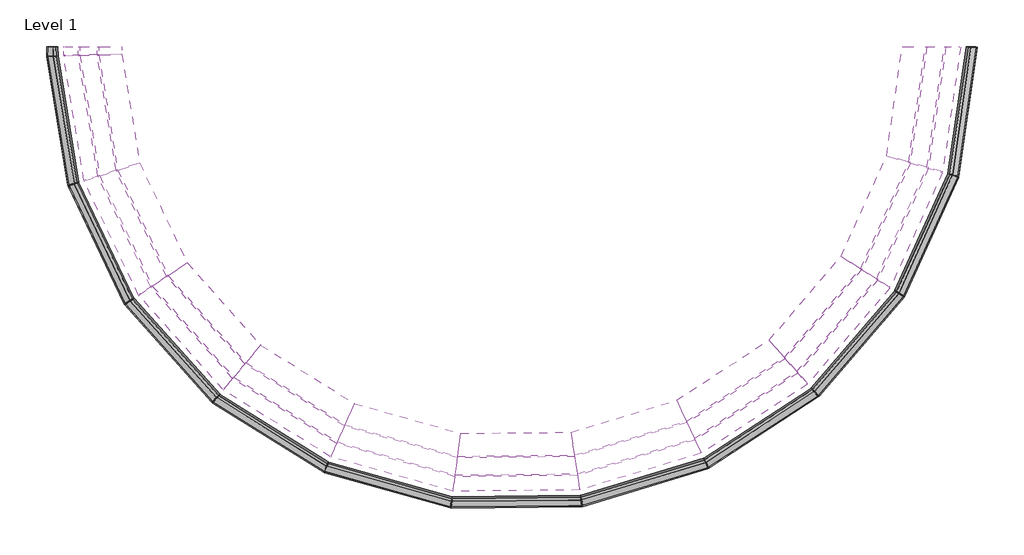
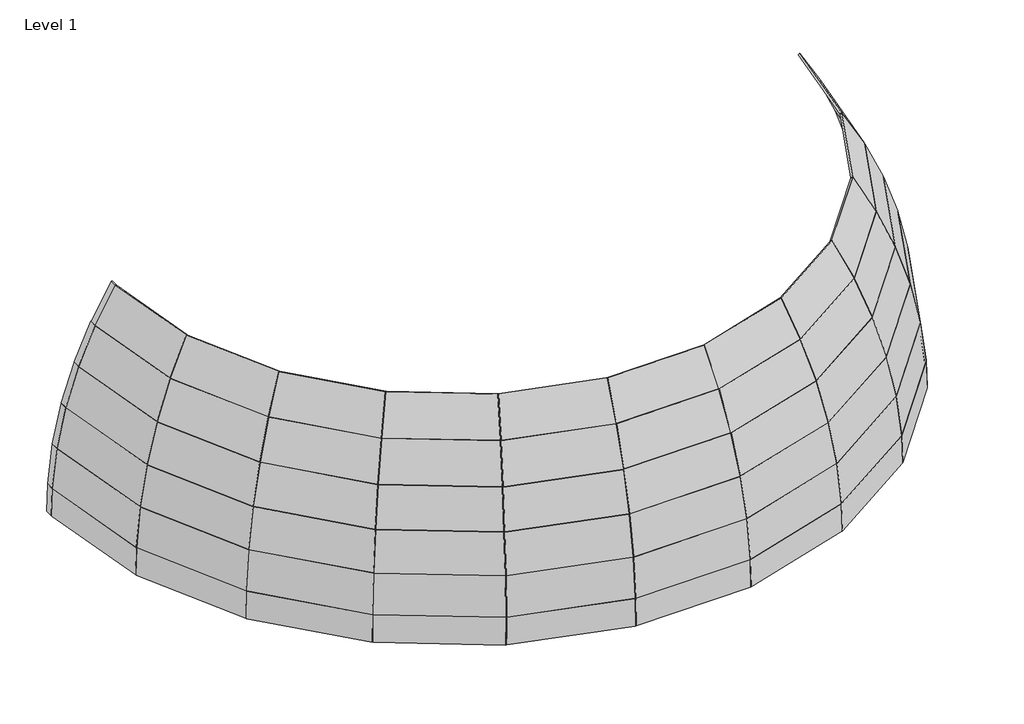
# One storey, incomplete: 72 plates.
"""IFC4 building model written with IfcOpenShell, lengths in millimetres."""

from ifc_helpers import new_model, si_unit, origin, place, context, project, spatial, transform, mapped, element, save
from components import system_panel_glazed_9db92dc2, system_panel_glazed_0b964716, system_panel_glazed_5303e616, system_panel_glazed_7b69f2d3, system_panel_glazed_4724628e, system_panel_glazed_c18eb5dc, system_panel_glazed_9270b77d, system_panel_glazed_18d00bfd, system_panel_glazed_ff2c9b8f, system_panel_glazed_78cb0e89, system_panel_glazed_68703ce9, system_panel_glazed_1107621f

model = new_model("IFC4")

# Units and contexts
model_context = context("Model", 3, world=origin())
ifc_project = project(units=[si_unit("LENGTHUNIT", "METRE", prefix="MILLI")], contexts=[model_context])

# Site, building, storey
site = spatial("IfcSite", under=ifc_project)
building = spatial("IfcBuilding", under=site)
storey = spatial("IfcBuildingStorey", under=building, Name="Level 1", Elevation=0.0)

# Plates
placement = place(None, origin())
system_panel_glazed_shape = system_panel_glazed_9db92dc2(model_context)
element("IfcPlate", 1, ObjectType="System Panel : Glazed", at=placement, inside=storey, context=model_context, shape_type="MappedRepresentation", body=[
    mapped(system_panel_glazed_shape, transform((10814.4260058, 2883.8033641, 3291.5428257), x_axis=(-0.14142135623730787, -0.9899494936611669, 0.0), y_axis=(-0.8610519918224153, 0.12300742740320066, -0.49341528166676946), z_axis=(0.48845620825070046, -0.06977945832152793, -0.8697938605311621))),
])
element("IfcPlate", 2, ObjectType="System Panel : Glazed", at=placement, inside=storey, context=model_context, shape_type="MappedRepresentation", body=[
    mapped(system_panel_glazed_shape, transform((10412.1571275, 1504.5957812, 3291.5428257), x_axis=(-0.4129503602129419, -0.9107535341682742, 0.0), y_axis=(-0.792167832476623, 0.35918168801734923, -0.49341528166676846), z_axis=(0.44937971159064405, -0.20375601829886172, -0.8697938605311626))),
])
element("IfcPlate", 3, ObjectType="System Panel : Glazed", at=placement, inside=storey, context=model_context, shape_type="MappedRepresentation", body=[
    mapped(system_panel_glazed_shape, transform((9639.8008811, 293.1917876, 3291.5428257), x_axis=(-0.6514433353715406, -0.7586972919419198, 0.0), y_axis=(-0.6599102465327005, 0.5666214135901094, -0.493415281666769), z_axis=(0.37435283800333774, -0.3214320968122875, -0.8697938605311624))),
])
element("IfcPlate", 4, ObjectType="System Panel : Glazed", at=placement, inside=storey, context=model_context, shape_type="MappedRepresentation", body=[
    mapped(system_panel_glazed_shape, transform((8559.1457663, -653.4962973, 3291.5428257), x_axis=(-0.8378208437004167, -0.5459452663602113, 0.0), y_axis=(-0.4748598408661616, 0.728731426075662, -0.4934152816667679), z_axis=(0.2693777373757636, -0.41339360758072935, -0.869793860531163))),
])
element("IfcPlate", 5, ObjectType="System Panel : Glazed", at=placement, inside=storey, context=model_context, shape_type="MappedRepresentation", body=[
    mapped(system_panel_glazed_shape, transform((7256.6441923, -1259.7334267, 3291.5428257), x_axis=(-0.9571726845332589, -0.28951761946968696, 0.0), y_axis=(-0.25182064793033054, 0.8325429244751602, -0.4934152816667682), z_axis=(0.1428524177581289, -0.47228362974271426, -0.8697938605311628))),
])
element("IfcPlate", 6, ObjectType="System Panel : Glazed", at=placement, inside=storey, context=model_context, shape_type="MappedRepresentation", body=[
    mapped(system_panel_glazed_shape, transform((5836.4962851, -1477.0206302, 3291.5428257), x_axis=(-0.9999507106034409, -0.009928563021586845, 0.0), y_axis=(-0.00863580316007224, 0.8697509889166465, -0.4934152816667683), z_axis=(0.004898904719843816, -0.4933909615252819, -0.8697938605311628))),
])
element("IfcPlate", 7, ObjectType="System Panel : Glazed", at=placement, inside=storey, context=model_context, shape_type="MappedRepresentation", body=[
    mapped(system_panel_glazed_shape, transform((4412.3138772, -1287.9749315, 3291.5428257), x_axis=(-0.9627326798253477, 0.2704547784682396, 0.0), y_axis=(0.23523990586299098, 0.8373789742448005, -0.49341528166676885), z_axis=(-0.133446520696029, -0.4750270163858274, -0.8697938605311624))),
])
element("IfcPlate", 8, ObjectType="System Panel : Glazed", at=placement, inside=storey, context=model_context, shape_type="MappedRepresentation", body=[
    mapped(system_panel_glazed_shape, transform((3098.0315612, -707.7199865, 3291.5428257), x_axis=(-0.8484960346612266, 0.5292017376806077, 0.0), y_axis=(0.4602964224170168, 0.7380166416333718, -0.49341528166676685), z_axis=(-0.26111622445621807, -0.41866090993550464, -0.8697938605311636))),
])
element("IfcPlate", 9, ObjectType="System Panel : Glazed", at=placement, inside=storey, context=model_context, shape_type="MappedRepresentation", body=[
    mapped(system_panel_glazed_shape, transform((1998.7919224, 217.3238091, 3291.5428257), x_axis=(-0.6663797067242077, 0.7456125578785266, 0.0), y_axis=(0.6485292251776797, 0.579612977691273, -0.4934152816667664), z_axis=(-0.3678966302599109, -0.3288019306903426, -0.8697938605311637))),
])
element("IfcPlate", 10, ObjectType="System Panel : Glazed", at=placement, inside=storey, context=model_context, shape_type="MappedRepresentation", body=[
    mapped(system_panel_glazed_shape, transform((1202.534132, 1413.1529517, 3291.5428257), x_axis=(-0.43095300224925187, 0.9023743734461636, 0.0), y_axis=(0.7848796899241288, 0.37484027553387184, -0.4934152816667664), z_axis=(-0.44524530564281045, -0.21263879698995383, -0.8697938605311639))),
])
element("IfcPlate", 11, ObjectType="System Panel : Glazed", at=placement, inside=storey, context=model_context, shape_type="MappedRepresentation", body=[
    mapped(system_panel_glazed_shape, transform((772.9588132, 2784.10111, 3291.5428257), x_axis=(-0.16105005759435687, 0.9869462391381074, 0.0), y_axis=(0.8584397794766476, 0.1400803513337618, -0.4934152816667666), z_axis=(-0.4869743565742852, -0.07946455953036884, -0.8697938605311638))),
])
system_panel_glazed_2_shape = system_panel_glazed_0b964716(model_context)
element("IfcPlate", 12, ObjectType="System Panel : Glazed", at=placement, inside=storey, context=model_context, shape_type="MappedRepresentation", body=[
    mapped(system_panel_glazed_2_shape, transform((655.5902288, 3551.1998937, 3291.5428257), x_axis=(-0.009928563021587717, 0.9999507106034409, 0.0), y_axis=(0.8676088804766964, 0.008614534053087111, -0.4971726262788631), z_axis=(-0.497148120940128, -0.004936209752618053, -0.8676516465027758))),
])
system_panel_glazed_3_shape = system_panel_glazed_5303e616(model_context)
element("IfcPlate", 13, ObjectType="System Panel : Glazed", at=placement, inside=storey, context=model_context, shape_type="MappedRepresentation", body=[
    mapped(system_panel_glazed_3_shape, transform((11111.4519315, 2841.371089, 2762.6288264), x_axis=(-0.14142135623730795, -0.9899494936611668, 0.0), y_axis=(-0.9052926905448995, 0.12932752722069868, -0.40462270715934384), z_axis=(0.40055604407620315, -0.057222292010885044, -0.9144837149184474))),
])
element("IfcPlate", 14, ObjectType="System Panel : Glazed", at=placement, inside=storey, context=model_context, shape_type="MappedRepresentation", body=[
    mapped(system_panel_glazed_3_shape, transform((10685.4209791, 1380.6935379, 2762.6288264), x_axis=(-0.41295036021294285, -0.9107535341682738, 0.0), y_axis=(-0.832869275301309, 0.37763637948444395, -0.40462270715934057), z_axis=(0.36851156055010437, -0.16708909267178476, -0.9144837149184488))),
])
element("IfcPlate", 15, ObjectType="System Panel : Glazed", at=placement, inside=storey, context=model_context, shape_type="MappedRepresentation", body=[
    mapped(system_panel_glazed_3_shape, transform((9867.4415505, 97.7317555, 2762.6288264), x_axis=(-0.65144333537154, -0.7586972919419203, 0.0), y_axis=(-0.6938163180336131, 0.5957343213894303, -0.4046227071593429), z_axis=(0.30698615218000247, -0.26358876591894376, -0.9144837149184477))),
])
element("IfcPlate", 16, ObjectType="System Panel : Glazed", at=placement, inside=storey, context=model_context, shape_type="MappedRepresentation", body=[
    mapped(system_panel_glazed_3_shape, transform((8722.952, -904.8773155, 2762.6288264), x_axis=(-0.837820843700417, -0.5459452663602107, 0.0), y_axis=(-0.4992580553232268, 0.7661735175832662, -0.4046227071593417), z_axis=(0.22090185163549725, -0.3390013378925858, -0.9144837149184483))),
])
element("IfcPlate", 17, ObjectType="System Panel : Glazed", at=placement, inside=storey, context=model_context, shape_type="MappedRepresentation", body=[
    mapped(system_panel_glazed_3_shape, transform((7343.5114916, -1546.9249496, 2762.6288264), x_axis=(-0.957172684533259, -0.2895176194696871, 0.0), y_axis=(-0.2647591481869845, 0.8753188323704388, -0.4046227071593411), z_axis=(0.11714540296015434, -0.38729380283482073, -0.9144837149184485))),
])
element("IfcPlate", 18, ObjectType="System Panel : Glazed", at=placement, inside=storey, context=model_context, shape_type="MappedRepresentation", body=[
    mapped(system_panel_glazed_3_shape, transform((5839.475266, -1777.047336, 2762.6288264), x_axis=(-0.9999507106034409, -0.009928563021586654, 0.0), y_axis=(-0.009079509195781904, 0.9144386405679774, -0.40462270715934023), z_axis=(0.004017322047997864, -0.40460276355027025, -0.9144837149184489))),
])
element("IfcPlate", 19, ObjectType="System Panel : Glazed", at=placement, inside=storey, context=model_context, shape_type="MappedRepresentation", body=[
    mapped(system_panel_glazed_3_shape, transform((4331.1662212, -1576.8346837, 2762.6288264), x_axis=(-0.9627326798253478, 0.2704547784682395, 0.0), y_axis=(0.24732649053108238, 0.8804033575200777, -0.4046227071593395), z_axis=(-0.1094321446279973, -0.3895435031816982, -0.9144837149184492))),
])
element("IfcPlate", 20, ObjectType="System Panel : Glazed", at=placement, inside=storey, context=model_context, shape_type="MappedRepresentation", body=[
    mapped(system_panel_glazed_3_shape, transform((2939.2490808, -962.304005, 2762.6288264), x_axis=(-0.8484960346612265, 0.5292017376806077, 0.0), y_axis=(0.48394637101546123, 0.7759358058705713, -0.4046227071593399), z_axis=(-0.21412703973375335, -0.3433207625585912, -0.914483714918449))),
])
element("IfcPlate", 21, ObjectType="System Panel : Glazed", at=placement, inside=storey, context=model_context, shape_type="MappedRepresentation", body=[
    mapped(system_panel_glazed_3_shape, transform((1775.0772162, 17.3822459, 2762.6288264), x_axis=(-0.6663797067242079, 0.7456125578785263, 0.0), y_axis=(0.6818505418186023, 0.60939338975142, -0.40462270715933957), z_axis=(-0.30169177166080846, -0.2696323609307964, -0.9144837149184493))),
])
element("IfcPlate", 22, ObjectType="System Panel : Glazed", at=placement, inside=storey, context=model_context, shape_type="MappedRepresentation", body=[
    mapped(system_panel_glazed_3_shape, transform((931.7843763, 1283.8491688, 2762.6288264), x_axis=(-0.4309530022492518, 0.9023743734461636, 0.0), y_axis=(0.8252066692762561, 0.39409950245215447, -0.4046227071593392), z_axis=(-0.3651211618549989, -0.17437337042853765, -0.9144837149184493))),
])
element("IfcPlate", 23, ObjectType="System Panel : Glazed", at=placement, inside=storey, context=model_context, shape_type="MappedRepresentation", body=[
    mapped(system_panel_glazed_3_shape, transform((476.8339884, 2735.77941, 2762.6288264), x_axis=(-0.1610500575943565, 0.9869462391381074, 0.0), y_axis=(0.9025462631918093, 0.14727765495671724, -0.40462270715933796), z_axis=(-0.3993408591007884, -0.06516451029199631, -0.9144837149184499))),
])
system_panel_glazed_4_shape = system_panel_glazed_7b69f2d3(model_context)
element("IfcPlate", 24, ObjectType="System Panel : Glazed", at=placement, inside=storey, context=model_context, shape_type="MappedRepresentation", body=[
    mapped(system_panel_glazed_4_shape, transform((352.5324268, 3548.1908169, 2762.6288264), x_axis=(-0.009928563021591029, 0.999950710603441, 0.0), y_axis=(0.9129222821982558, 0.009064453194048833, -0.40803277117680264), z_axis=(-0.408012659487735, -0.004051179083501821, -0.9129672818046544))),
])
system_panel_glazed_5_shape = system_panel_glazed_4724628e(model_context)
element("IfcPlate", 25, ObjectType="System Panel : Glazed", at=placement, inside=storey, context=model_context, shape_type="MappedRepresentation", body=[
    mapped(system_panel_glazed_5_shape, transform((11355.2239882, 2806.5465095, 2206.0885388), x_axis=(-0.1414213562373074, -0.9899494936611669, 0.0), y_axis=(-0.9405421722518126, 0.1343631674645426, -0.31197269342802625), z_axis=(0.308837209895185, -0.04411960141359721, -0.9500910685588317))),
])
element("IfcPlate", 26, ObjectType="System Panel : Glazed", at=placement, inside=storey, context=model_context, shape_type="MappedRepresentation", body=[
    mapped(system_panel_glazed_5_shape, transform((10909.6912712, 1279.0057657, 2206.0885388), x_axis=(-0.4129503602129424, -0.9107535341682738, 0.0), y_axis=(-0.8652987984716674, 0.39234044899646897, -0.31197269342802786), z_axis=(0.28413023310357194, -0.12882923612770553, -0.9500910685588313))),
])
element("IfcPlate", 27, ObjectType="System Panel : Glazed", at=placement, inside=storey, context=model_context, shape_type="MappedRepresentation", body=[
    mapped(system_panel_glazed_5_shape, transform((10054.2684547, -62.6841876, 2206.0885388), x_axis=(-0.6514433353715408, -0.7586972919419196, 0.0), y_axis=(-0.7208315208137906, 0.6189304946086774, -0.3119726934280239), z_axis=(0.23669283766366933, -0.20323253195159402, -0.9500910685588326))),
])
element("IfcPlate", 28, ObjectType="System Panel : Glazed", at=placement, inside=storey, context=model_context, shape_type="MappedRepresentation", body=[
    mapped(system_panel_glazed_5_shape, transform((8857.389364, -1111.1881541, 2206.0885388), x_axis=(-0.8378208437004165, -0.5459452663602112, 0.0), y_axis=(-0.5186977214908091, 0.7960061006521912, -0.3119726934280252), z_axis=(0.17032001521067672, -0.2613772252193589, -0.9500910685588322))),
])
element("IfcPlate", 29, ObjectType="System Panel : Glazed", at=placement, inside=storey, context=model_context, shape_type="MappedRepresentation", body=[
    mapped(system_panel_glazed_5_shape, transform((7414.8043262, -1782.6258165, 2206.0885388), x_axis=(-0.957172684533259, -0.28951761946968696, 0.0), y_axis=(-0.2750681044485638, 0.9094012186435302, -0.3119726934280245), z_axis=(0.09032159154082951, -0.2986117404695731, -0.9500910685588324))),
])
element("IfcPlate", 30, ObjectType="System Panel : Glazed", at=placement, inside=storey, context=model_context, shape_type="MappedRepresentation", body=[
    mapped(system_panel_glazed_5_shape, transform((5841.9201445, -2023.2821619, 2206.0885388), x_axis=(-0.999950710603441, -0.009928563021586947, 0.0), y_axis=(-0.009433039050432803, 0.9500442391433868, -0.31197269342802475), z_axis=(0.0030974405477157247, -0.3119573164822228, -0.9500910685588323))),
])
element("IfcPlate", 31, ObjectType="System Panel : Glazed", at=placement, inside=storey, context=model_context, shape_type="MappedRepresentation", body=[
    mapped(system_panel_glazed_5_shape, transform((4264.5675533, -1813.9046826, 2206.0885388), x_axis=(-0.9627326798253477, 0.2704547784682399, 0.0), y_axis=(0.2569566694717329, 0.9146837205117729, -0.3119726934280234), z_axis=(-0.08437450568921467, -0.30034630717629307, -0.9500910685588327))),
])
element("IfcPlate", 32, ObjectType="System Panel : Glazed", at=placement, inside=storey, context=model_context, shape_type="MappedRepresentation", body=[
    mapped(system_panel_glazed_5_shape, transform((2808.93476, -1171.2435769, 2206.0885388), x_axis=(-0.8484960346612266, 0.5292017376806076, 0.0), y_axis=(0.50278984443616, 0.806148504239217, -0.31197269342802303), z_axis=(-0.16509649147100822, -0.2647075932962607, -0.9500910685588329))),
])
element("IfcPlate", 33, ObjectType="System Panel : Glazed", at=placement, inside=storey, context=model_context, shape_type="MappedRepresentation", body=[
    mapped(system_panel_glazed_5_shape, transform((1591.472388, -146.7117333, 2206.0885388), x_axis=(-0.6663797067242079, 0.7456125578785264, 0.0), y_axis=(0.7083998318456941, 0.633121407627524, -0.31197269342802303), z_axis=(-0.23261075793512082, -0.207892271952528, -0.9500910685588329))),
])
element("IfcPlate", 34, ObjectType="System Panel : Glazed", at=placement, inside=storey, context=model_context, shape_type="MappedRepresentation", body=[
    mapped(system_panel_glazed_5_shape, transform((709.5774271, 1177.7283007, 2206.0885388), x_axis=(-0.43095300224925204, 0.9023743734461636, 0.0), y_axis=(0.8573378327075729, 0.4094445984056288, -0.3119726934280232), z_axis=(-0.2815161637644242, -0.1344455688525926, -0.9500910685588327))),
])
element("IfcPlate", 35, ObjectType="System Panel : Glazed", at=placement, inside=storey, context=model_context, shape_type="MappedRepresentation", body=[
    mapped(system_panel_glazed_5_shape, transform((233.8014741, 2696.1213224, 2206.0885388), x_axis=(-0.16105005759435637, 0.9869462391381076, 0.0), y_axis=(0.9376888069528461, 0.15301222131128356, -0.3119726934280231), z_axis=(-0.3079002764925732, -0.05024322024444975, -0.9500910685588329))),
])
system_panel_glazed_6_shape = system_panel_glazed_c18eb5dc(model_context)
element("IfcPlate", 36, ObjectType="System Panel : Glazed", at=placement, inside=storey, context=model_context, shape_type="MappedRepresentation", body=[
    mapped(system_panel_glazed_6_shape, transform((103.8099508, 3545.7212384, 2206.0885388), x_axis=(-0.009928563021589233, 0.9999507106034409, 0.0), y_axis=(0.9491067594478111, 0.009423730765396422, -0.3148135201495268), z_axis=(-0.3147980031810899, -0.0031256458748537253, -0.9491535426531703))),
])
system_panel_glazed_7_shape = system_panel_glazed_9270b77d(model_context)
element("IfcPlate", 37, ObjectType="System Panel : Glazed", at=placement, inside=storey, context=model_context, shape_type="MappedRepresentation", body=[
    mapped(system_panel_glazed_7_shape, transform((11543.3044552, 2779.6778713, 1627.4873658), x_axis=(-0.14142135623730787, -0.9899494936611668, 0.0), y_axis=(-0.9665001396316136, 0.13807144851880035, -0.21636486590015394), z_axis=(0.21419028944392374, -0.030598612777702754, -0.9763125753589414))),
])
element("IfcPlate", 38, ObjectType="System Panel : Glazed", at=placement, inside=storey, context=model_context, shape_type="MappedRepresentation", body=[
    mapped(system_panel_glazed_7_shape, transform((11082.7253009, 1200.5493423, 1627.4873658), x_axis=(-0.4129503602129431, -0.9107535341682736, 0.0), y_axis=(-0.8891801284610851, 0.4031686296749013, -0.21636486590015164), z_axis=(0.19705506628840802, -0.08934794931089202, -0.9763125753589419))),
])
element("IfcPlate", 39, ObjectType="System Panel : Glazed", at=placement, inside=storey, context=model_context, shape_type="MappedRepresentation", body=[
    mapped(system_panel_glazed_7_shape, transform((10198.4133247, -186.4518823, 1627.4873658), x_axis=(-0.65144333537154, -0.7586972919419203, 0.0), y_axis=(-0.7407257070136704, 0.6360123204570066, -0.21636486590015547), z_axis=(0.1641554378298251, -0.14094944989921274, -0.976312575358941))),
])
element("IfcPlate", 40, ObjectType="System Panel : Glazed", at=placement, inside=storey, context=model_context, shape_type="MappedRepresentation", body=[
    mapped(system_panel_glazed_7_shape, transform((8961.1134846, -1270.3657046, 1627.4873658), x_axis=(-0.8378208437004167, -0.5459452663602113, 0.0), y_axis=(-0.5330132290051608, 0.8179750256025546, -0.2163648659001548), z_axis=(0.11812337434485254, -0.18127499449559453, -0.9763125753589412))),
])
element("IfcPlate", 41, ObjectType="System Panel : Glazed", at=placement, inside=storey, context=model_context, shape_type="MappedRepresentation", body=[
    mapped(system_panel_glazed_7_shape, transform((7469.8097678, -1964.4790188, 1627.4873658), x_axis=(-0.9571726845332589, -0.289517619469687, 0.0), y_axis=(-0.2826596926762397, 0.9344997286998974, -0.2163648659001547), z_axis=(0.06264144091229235, -0.20709853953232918, -0.9763125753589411))),
])
element("IfcPlate", 42, ObjectType="System Panel : Glazed", at=placement, inside=storey, context=model_context, shape_type="MappedRepresentation", body=[
    mapped(system_panel_glazed_7_shape, transform((5843.8064718, -2213.2627598, 1627.4873658), x_axis=(-0.9999507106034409, -0.0099285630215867, 0.0), y_axis=(-0.009693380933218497, 0.9762644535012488, -0.21636486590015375), z_axis=(0.0021481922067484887, -0.2163542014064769, -0.9763125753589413))),
])
element("IfcPlate", 43, ObjectType="System Panel : Glazed", at=placement, inside=storey, context=model_context, shape_type="MappedRepresentation", body=[
    mapped(system_panel_glazed_7_shape, transform((4213.1838601, -1996.8142282, 1627.4873658), x_axis=(-0.9627326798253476, 0.27045477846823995, 0.0), y_axis=(0.2640484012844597, 0.9399280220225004, -0.21636486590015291), z_axis=(-0.058516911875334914, -0.20830152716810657, -0.9763125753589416))),
])
element("IfcPlate", 44, ObjectType="System Panel : Glazed", at=placement, inside=storey, context=model_context, shape_type="MappedRepresentation", body=[
    mapped(system_panel_glazed_7_shape, transform((2708.3917417, -1332.4493066, 1627.4873658), x_axis=(-0.8484960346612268, 0.5292017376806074, 0.0), y_axis=(0.5166663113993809, 0.8283973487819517, -0.21636486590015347), z_axis=(-0.1145006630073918, -0.18358473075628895, -0.9763125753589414))),
])
element("IfcPlate", 45, ObjectType="System Panel : Glazed", at=placement, inside=storey, context=model_context, shape_type="MappedRepresentation", body=[
    mapped(system_panel_glazed_7_shape, transform((1449.8134862, -273.3171887, 1627.4873658), x_axis=(-0.6663797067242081, 0.7456125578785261, 0.0), y_axis=(0.7279509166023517, 0.6505948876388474, -0.21636486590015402), z_axis=(-0.16132436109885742, -0.14418115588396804, -0.9763125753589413))),
])
element("IfcPlate", 46, ObjectType="System Panel : Glazed", at=placement, inside=storey, context=model_context, shape_type="MappedRepresentation", body=[
    mapped(system_panel_glazed_7_shape, transform((538.1353538, 1095.851556, 1627.4873658), x_axis=(-0.4309530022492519, 0.9023743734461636, 0.0), y_axis=(0.8809994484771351, 0.4207448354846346, -0.21636486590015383), z_axis=(-0.19524211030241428, -0.09324308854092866, -0.9763125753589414))),
])
element("IfcPlate", 47, ObjectType="System Panel : Glazed", at=placement, inside=storey, context=model_context, shape_type="MappedRepresentation", body=[
    mapped(system_panel_glazed_7_shape, transform((46.2915953, 2665.523428, 1627.4873658), x_axis=(-0.16105005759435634, 0.9869462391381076, 0.0), y_axis=(0.9635680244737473, 0.15723519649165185, -0.2163648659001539), z_axis=(-0.21354049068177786, -0.03484557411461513, -0.9763125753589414))),
])
system_panel_glazed_8_shape = system_panel_glazed_18d00bfd(model_context)
element("IfcPlate", 48, ObjectType="System Panel : Glazed", at=placement, inside=storey, context=model_context, shape_type="MappedRepresentation", body=[
    mapped(system_panel_glazed_8_shape, transform((-88.0899745, 3543.815854, 1627.4873658), x_axis=(-0.009928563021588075, 0.9999507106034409, 0.0), y_axis=(0.9758007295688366, 0.00968877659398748, -0.21844693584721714), z_axis=(-0.21843616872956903, -0.0021688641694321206, -0.9758488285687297))),
])
system_panel_glazed_9_shape = system_panel_glazed_ff2c9b8f(model_context)
element("IfcPlate", 49, ObjectType="System Panel : Glazed", at=placement, inside=storey, context=model_context, shape_type="MappedRepresentation", body=[
    mapped(system_panel_glazed_9_shape, transform((11673.812528, 2761.033861, 1032.6113192), x_axis=(-0.14142135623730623, -0.9899494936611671, 0.0), y_axis=(-0.9829490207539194, 0.140421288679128, -0.11871429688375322), z_axis=(0.11752115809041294, -0.016788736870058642, -0.992928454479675))),
])
element("IfcPlate", 50, ObjectType="System Panel : Glazed", at=placement, inside=storey, context=model_context, shape_type="MappedRepresentation", body=[
    mapped(system_panel_glazed_9_shape, transform((11202.7927278, 1146.108832, 1032.6113192), x_axis=(-0.4129503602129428, -0.9107535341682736, 0.0), y_axis=(-0.9043130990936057, 0.4100301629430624, -0.11871429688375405), z_axis=(0.10811946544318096, -0.04902311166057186, -0.9929284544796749))),
])
element("IfcPlate", 51, ObjectType="System Panel : Glazed", at=placement, inside=storey, context=model_context, shape_type="MappedRepresentation", body=[
    mapped(system_panel_glazed_9_shape, transform((10298.4347116, -272.3336518, 1032.6113192), x_axis=(-0.6514433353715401, -0.7586972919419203, 0.0), y_axis=(-0.7533321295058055, 0.6468366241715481, -0.1187142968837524), z_axis=(0.09006821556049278, -0.07733563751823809, -0.9929284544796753))),
])
element("IfcPlate", 52, ObjectType="System Panel : Glazed", at=placement, inside=storey, context=model_context, shape_type="MappedRepresentation", body=[
    mapped(system_panel_glazed_9_shape, transform((9033.0871206, -1380.8181917, 1032.6113192), x_axis=(-0.8378208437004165, -0.5459452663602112, 0.0), y_axis=(-0.5420845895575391, 0.8318961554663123, -0.11871429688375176), z_axis=(0.06481150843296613, -0.09946131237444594, -0.9929284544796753))),
])
element("IfcPlate", 53, ObjectType="System Panel : Glazed", at=placement, inside=storey, context=model_context, shape_type="MappedRepresentation", body=[
    mapped(system_panel_glazed_9_shape, transform((7507.977762, -2090.6660245, 1032.6113192), x_axis=(-0.9571726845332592, -0.2895176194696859, 0.0), y_axis=(-0.2874702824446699, 0.9504039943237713, -0.11871429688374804), z_axis=(0.03436988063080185, -0.11363008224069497, -0.9929284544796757))),
])
element("IfcPlate", 54, ObjectType="System Panel : Glazed", at=placement, inside=storey, context=model_context, shape_type="MappedRepresentation", body=[
    mapped(system_panel_glazed_9_shape, transform((5845.1153846, -2345.0893236, 1032.6113192), x_axis=(-0.9999507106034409, -0.009928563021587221, 0.0), y_axis=(-0.009858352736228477, 0.992879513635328, -0.11871429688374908), z_axis=(0.0011786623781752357, -0.1187084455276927, -0.9929284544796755))),
])
element("IfcPlate", 55, ObjectType="System Panel : Glazed", at=placement, inside=storey, context=model_context, shape_type="MappedRepresentation", body=[
    mapped(system_panel_glazed_9_shape, transform((4177.5289786, -2123.734225, 1032.6113192), x_axis=(-0.9627326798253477, 0.2704547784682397, 0.0), y_axis=(0.2685422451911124, 0.9559246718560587, -0.11871429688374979), z_axis=(-0.03210684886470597, -0.11429013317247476, -0.9929284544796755))),
])
element("IfcPlate", 56, ObjectType="System Panel : Glazed", at=placement, inside=storey, context=model_context, shape_type="MappedRepresentation", body=[
    mapped(system_panel_glazed_9_shape, transform((2638.6254564, -1444.3091367, 1032.6113192), x_axis=(-0.8484960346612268, 0.5292017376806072, 0.0), y_axis=(0.5254594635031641, 0.8424958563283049, -0.11871429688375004), z_axis=(-0.06282381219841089, -0.10072861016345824, -0.9929284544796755))),
])
element("IfcPlate", 57, ObjectType="System Panel : Glazed", at=placement, inside=storey, context=model_context, shape_type="MappedRepresentation", body=[
    mapped(system_panel_glazed_9_shape, transform((1351.5170998, -361.1680658, 1032.6113192), x_axis=(-0.6663797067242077, 0.7456125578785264, 0.0), y_axis=(0.7403399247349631, 0.661667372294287, -0.11871429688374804), z_axis=(-0.08851487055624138, -0.07910879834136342, -0.9929284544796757))),
])
element("IfcPlate", 58, ObjectType="System Panel : Glazed", at=placement, inside=storey, context=model_context, shape_type="MappedRepresentation", body=[
    mapped(system_panel_glazed_9_shape, transform((419.1725773, 1039.0377022, 1032.6113192), x_axis=(-0.43095300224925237, 0.9023743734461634, 0.0), y_axis=(0.8959931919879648, 0.42790549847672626, -0.11871429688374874), z_axis=(-0.10712473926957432, -0.05116028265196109, -0.9929284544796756))),
])
element("IfcPlate", 59, ObjectType="System Panel : Glazed", at=placement, inside=storey, context=model_context, shape_type="MappedRepresentation", body=[
    mapped(system_panel_glazed_9_shape, transform((-83.8205492, 2644.2917058, 1032.6113192), x_axis=(-0.1610500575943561, 0.9869462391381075, 0.0), y_axis=(0.9799670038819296, 0.15991118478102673, -0.11871429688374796), z_axis=(-0.11716462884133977, -0.01911894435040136, -0.9929284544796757))),
])
system_panel_glazed_10_shape = system_panel_glazed_78cb0e89(model_context)
element("IfcPlate", 60, ObjectType="System Panel : Glazed", at=placement, inside=storey, context=model_context, shape_type="MappedRepresentation", body=[
    mapped(system_panel_glazed_10_shape, transform((-221.2483497, 3542.4937175, 1032.6113192), x_axis=(-0.009928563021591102, 0.999950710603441, 0.0), y_axis=(0.9927374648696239, 0.009856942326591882, -0.11989648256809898), z_axis=(-0.11989057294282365, -0.0011903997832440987, -0.9927863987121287))),
])
system_panel_glazed_11_shape = system_panel_glazed_68703ce9(model_context)
element("IfcPlate", 61, ObjectType="System Panel : Glazed", at=placement, inside=storey, context=model_context, shape_type="MappedRepresentation", body=[
    mapped(system_panel_glazed_11_shape, transform((11745.4431257, 2750.8009184, 427.4091594), x_axis=(-0.1414213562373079, -0.9899494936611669, 0.0), y_axis=(-0.9893524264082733, 0.14133606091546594, -0.03472598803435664), z_axis=(0.03437697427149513, -0.004910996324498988, -0.9993968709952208))),
])
element("IfcPlate", 62, ObjectType="System Panel : Glazed", at=placement, inside=storey, context=model_context, shape_type="MappedRepresentation", body=[
    mapped(system_panel_glazed_11_shape, transform((11268.6928778, 1116.2286398, 427.4091594), x_axis=(-0.41295036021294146, -0.9107535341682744, 0.0), y_axis=(-0.9102042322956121, 0.41270129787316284, -0.03472598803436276), z_axis=(0.03162681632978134, -0.014340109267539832, -0.9993968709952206))),
])
element("IfcPlate", 63, ObjectType="System Panel : Glazed", at=placement, inside=storey, context=model_context, shape_type="MappedRepresentation", body=[
    mapped(system_panel_glazed_11_shape, transform((10353.3324017, -319.4706783, 427.4091594), x_axis=(-0.6514433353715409, -0.7586972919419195, 0.0), y_axis=(-0.7582396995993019, 0.6510504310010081, -0.03472598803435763), z_axis=(0.02634651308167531, -0.022622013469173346, -0.9993968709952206))),
])
element("IfcPlate", 64, ObjectType="System Panel : Glazed", at=placement, inside=storey, context=model_context, shape_type="MappedRepresentation", body=[
    mapped(system_panel_glazed_11_shape, transform((9072.5905357, -1441.4410903, 427.4091594), x_axis=(-0.8378208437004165, -0.5459452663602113, 0.0), y_axis=(-0.5456159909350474, 0.8373155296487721, -0.03472598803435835), z_axis=(0.018958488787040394, -0.029094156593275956, -0.9993968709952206))),
])
element("IfcPlate", 65, ObjectType="System Panel : Glazed", at=placement, inside=storey, context=model_context, shape_type="MappedRepresentation", body=[
    mapped(system_panel_glazed_11_shape, transform((7528.9266289, -2159.9249634, 427.4091594), x_axis=(-0.9571726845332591, -0.2895176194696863, 0.0), y_axis=(-0.2893430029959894, 0.9565953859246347, -0.034725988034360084), z_axis=(0.010053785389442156, -0.033238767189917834, -0.9993968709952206))),
])
element("IfcPlate", 66, ObjectType="System Panel : Glazed", at=placement, inside=storey, context=model_context, shape_type="MappedRepresentation", body=[
    mapped(system_panel_glazed_11_shape, transform((5845.8337939, -2417.4435877, 427.4091594), x_axis=(-0.999950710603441, -0.009928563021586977, 0.0), y_axis=(-0.009922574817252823, 0.9993476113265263, -0.034725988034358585), z_axis=(0.0003447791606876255, -0.034724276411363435, -0.9993968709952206))),
])
element("IfcPlate", 67, ObjectType="System Panel : Glazed", at=placement, inside=storey, context=model_context, shape_type="MappedRepresentation", body=[
    mapped(system_panel_glazed_11_shape, transform((4157.9594575, -2193.3954732, 427.4091594), x_axis=(-0.9627326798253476, 0.2704547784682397, 0.0), y_axis=(0.2702916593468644, 0.9621520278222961, -0.0347259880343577), z_axis=(-0.009391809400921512, -0.03343184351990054, -0.9993968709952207))),
])
element("IfcPlate", 68, ObjectType="System Panel : Glazed", at=placement, inside=storey, context=model_context, shape_type="MappedRepresentation", body=[
    mapped(system_panel_glazed_11_shape, transform((2600.3335667, -1505.704469, 427.4091594), x_axis=(-0.8484960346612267, 0.5292017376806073, 0.0), y_axis=(0.5288825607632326, 0.8479842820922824, -0.03472598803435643), z_axis=(-0.018377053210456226, -0.029464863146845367, -0.9993968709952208))),
])
element("IfcPlate", 69, ObjectType="System Panel : Glazed", at=placement, inside=storey, context=model_context, shape_type="MappedRepresentation", body=[
    mapped(system_panel_glazed_11_shape, transform((1297.5661926, -409.3858557, 427.4091594), x_axis=(-0.6663797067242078, 0.7456125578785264, 0.0), y_axis=(0.7451628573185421, 0.6659777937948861, -0.0347259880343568), z_axis=(-0.025892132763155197, -0.023140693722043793, -0.9993968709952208))),
])
element("IfcPlate", 70, ObjectType="System Panel : Glazed", at=placement, inside=storey, context=model_context, shape_type="MappedRepresentation", body=[
    mapped(system_panel_glazed_11_shape, transform((353.8787253, 1007.8548779, 427.4091594), x_axis=(-0.4309530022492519, 0.9023743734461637, 0.0), y_axis=(0.9018301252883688, 0.4306930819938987, -0.03472598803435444), z_axis=(-0.03133584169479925, -0.014965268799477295, -0.9993968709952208))),
])
element("IfcPlate", 71, ObjectType="System Panel : Glazed", at=placement, inside=storey, context=model_context, shape_type="MappedRepresentation", body=[
    mapped(system_panel_glazed_11_shape, transform((-155.233838, 2632.638473, 427.4091594), x_axis=(-0.16105005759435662, 0.9869462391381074, 0.0), y_axis=(0.9863509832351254, 0.16095292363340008, -0.03472598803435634), z_axis=(-0.03427268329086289, -0.005592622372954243, -0.9993968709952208))),
])
system_panel_glazed_12_shape = system_panel_glazed_1107621f(model_context)
element("IfcPlate", 72, ObjectType="System Panel : Glazed", at=placement, inside=storey, context=model_context, shape_type="MappedRepresentation", body=[
    mapped(system_panel_glazed_12_shape, transform((-294.3335912, 3541.7680503, 427.4091594), x_axis=(-0.009928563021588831, 0.999950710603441, 0.0), y_axis=(0.999335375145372, 0.009922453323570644, -0.0350763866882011), z_axis=(-0.03507465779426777, -0.00034825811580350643, -0.9993846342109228))),
])

save(model, "model.ifc")
